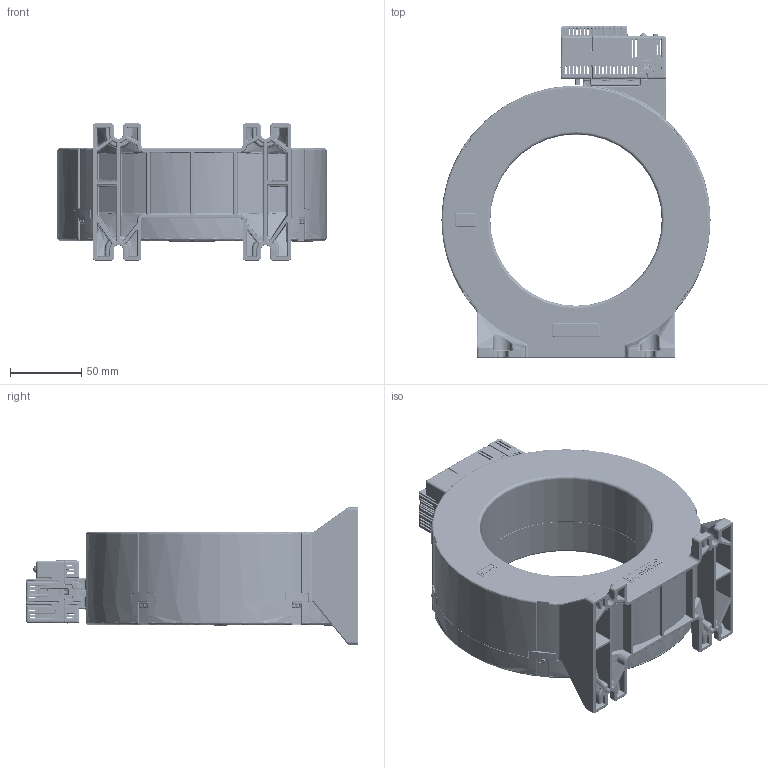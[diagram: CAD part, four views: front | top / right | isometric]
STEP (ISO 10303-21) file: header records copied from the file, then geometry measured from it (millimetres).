
FILE_DESCRIPTION (( 'STEP AP214' ), '1' );
FILE_NAME ('xRCxx30x-CTBC120x.STEP', '2019-04-11T13:45:50', ( 'Administrator' ), ( '' ), 'SwSTEP 2.0', 'SolidWorks 2019', '' );
FILE_SCHEMA (( 'AUTOMOTIVE_DESIGN' ));
Length unit declared in the file: millimetre
Products named in the file (1): xRCxx30x-CTBC120x
Bounding box: 188.4 x 232.35 x 96 mm (x, y, z)
Volume: 317338.7 mm3; surface area: 282844.1 mm2
Topology: 11 solids, 15 shells, 10925 faces, 27286 edges, 16247 vertices
Faces by surface type: cylinder 3075, plane 3067, bspline 2838, torus 1000, cone 488, sphere 457
Entity records: 519326 total; most frequent: CARTESIAN_POINT 162320, ORIENTED_EDGE 53810, DIRECTION 44288, EDGE_CURVE 26905, VERTEX_POINT 16221, AXIS2_PLACEMENT_3D 16102, LINE 12084, VECTOR 12084
